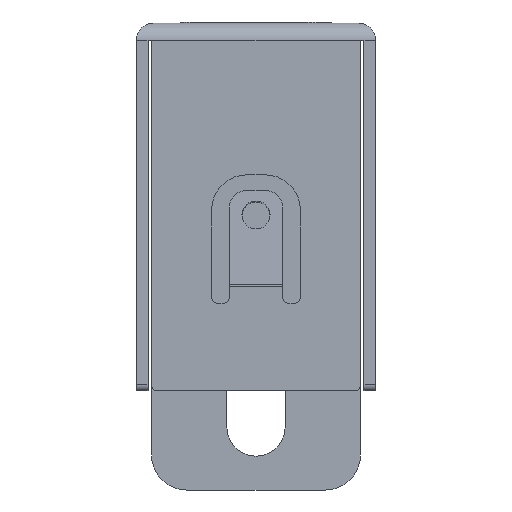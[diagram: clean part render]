
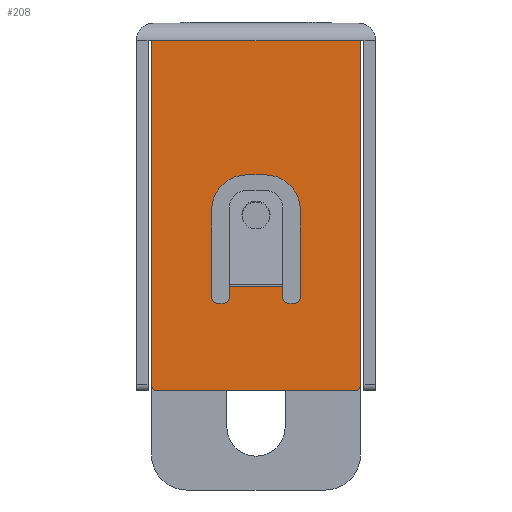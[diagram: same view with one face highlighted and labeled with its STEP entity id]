
A CAD part, front view. The second image highlights one B-rep face of the part: STEP entity #208.
In plain terms, the highlighted planar face has unit normal (0, -1, 0).
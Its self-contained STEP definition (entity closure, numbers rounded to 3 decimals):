
#208 = ADVANCED_FACE( '', ( #495, #496 ), #497, .F. );
#495 = FACE_BOUND( '', #796, .T. );
#496 = FACE_OUTER_BOUND( '', #797, .T. );
#497 = PLANE( '', #798 );
#796 = EDGE_LOOP( '', ( #1935, #1936, #1937, #1938, #1939, #1940, #1941, #1942, #1943, #1944, #1945, #1946, #1947, #1948 ) );
#797 = EDGE_LOOP( '', ( #1949, #1950, #1951, #1952, #1953, #1954 ) );
#798 = AXIS2_PLACEMENT_3D( '', #1955, #1956, #1957 );
#1935 = ORIENTED_EDGE( '', *, *, #2446, .T. );
#1936 = ORIENTED_EDGE( '', *, *, #2412, .T. );
#1937 = ORIENTED_EDGE( '', *, *, #2415, .T. );
#1938 = ORIENTED_EDGE( '', *, *, #2417, .T. );
#1939 = ORIENTED_EDGE( '', *, *, #2419, .T. );
#1940 = ORIENTED_EDGE( '', *, *, #2421, .T. );
#1941 = ORIENTED_EDGE( '', *, *, #2423, .T. );
#1942 = ORIENTED_EDGE( '', *, *, #2425, .T. );
#1943 = ORIENTED_EDGE( '', *, *, #2427, .T. );
#1944 = ORIENTED_EDGE( '', *, *, #2431, .T. );
#1945 = ORIENTED_EDGE( '', *, *, #2447, .T. );
#1946 = ORIENTED_EDGE( '', *, *, #2441, .T. );
#1947 = ORIENTED_EDGE( '', *, *, #2442, .T. );
#1948 = ORIENTED_EDGE( '', *, *, #2444, .T. );
#1949 = ORIENTED_EDGE( '', *, *, #2403, .F. );
#1950 = ORIENTED_EDGE( '', *, *, #2411, .F. );
#1951 = ORIENTED_EDGE( '', *, *, #2409, .F. );
#1952 = ORIENTED_EDGE( '', *, *, #2407, .F. );
#1953 = ORIENTED_EDGE( '', *, *, #2205, .F. );
#1954 = ORIENTED_EDGE( '', *, *, #2406, .F. );
#1955 = CARTESIAN_POINT( '', ( -8.45, 0., -31. ) );
#1956 = DIRECTION( '', ( 0., 1., 0. ) );
#1957 = DIRECTION( '', ( 0., 0., 1. ) );
#2205 = EDGE_CURVE( '', #2508, #2498, #2722, .T. );
#2403 = EDGE_CURVE( '', #3042, #3043, #3044, .T. );
#2406 = EDGE_CURVE( '', #3043, #2508, #3047, .T. );
#2407 = EDGE_CURVE( '', #2498, #3048, #3049, .T. );
#2409 = EDGE_CURVE( '', #3048, #3051, #3052, .T. );
#2411 = EDGE_CURVE( '', #3051, #3042, #3054, .T. );
#2412 = EDGE_CURVE( '', #3055, #3056, #3057, .T. );
#2415 = EDGE_CURVE( '', #3056, #3060, #3061, .T. );
#2417 = EDGE_CURVE( '', #3060, #3063, #3064, .T. );
#2419 = EDGE_CURVE( '', #3063, #3066, #3067, .T. );
#2421 = EDGE_CURVE( '', #3066, #3069, #3070, .T. );
#2423 = EDGE_CURVE( '', #3069, #3072, #3073, .T. );
#2425 = EDGE_CURVE( '', #3072, #3075, #3076, .T. );
#2427 = EDGE_CURVE( '', #3075, #3078, #3079, .T. );
#2431 = EDGE_CURVE( '', #3078, #3084, #3086, .T. );
#2441 = EDGE_CURVE( '', #3093, #3102, #3104, .T. );
#2442 = EDGE_CURVE( '', #3102, #3105, #3106, .T. );
#2444 = EDGE_CURVE( '', #3105, #3108, #3109, .T. );
#2446 = EDGE_CURVE( '', #3108, #3055, #3111, .T. );
#2447 = EDGE_CURVE( '', #3084, #3093, #3112, .T. );
#2498 = VERTEX_POINT( '', #3182 );
#2508 = VERTEX_POINT( '', #3197 );
#2722 = LINE( '', #3495, #3496 );
#3042 = VERTEX_POINT( '', #3962 );
#3043 = VERTEX_POINT( '', #3963 );
#3044 = CIRCLE( '', #3964, 0.5 );
#3047 = LINE( '', #3969, #3970 );
#3048 = VERTEX_POINT( '', #3971 );
#3049 = LINE( '', #3972, #3973 );
#3051 = VERTEX_POINT( '', #3976 );
#3052 = CIRCLE( '', #3977, 0.5 );
#3054 = LINE( '', #3980, #3981 );
#3055 = VERTEX_POINT( '', #3982 );
#3056 = VERTEX_POINT( '', #3983 );
#3057 = LINE( '', #3984, #3985 );
#3060 = VERTEX_POINT( '', #3990 );
#3061 = CIRCLE( '', #3991, 3. );
#3063 = VERTEX_POINT( '', #3994 );
#3064 = LINE( '', #3995, #3996 );
#3066 = VERTEX_POINT( '', #3999 );
#3067 = CIRCLE( '', #4000, 3. );
#3069 = VERTEX_POINT( '', #4003 );
#3070 = LINE( '', #4004, #4005 );
#3072 = VERTEX_POINT( '', #4008 );
#3073 = CIRCLE( '', #4009, 0.5 );
#3075 = VERTEX_POINT( '', #4012 );
#3076 = LINE( '', #4013, #4014 );
#3078 = VERTEX_POINT( '', #4017 );
#3079 = CIRCLE( '', #4018, 0.5 );
#3084 = VERTEX_POINT( '', #4025 );
#3086 = LINE( '', #4027, #4028 );
#3093 = VERTEX_POINT( '', #4037 );
#3102 = VERTEX_POINT( '', #4049 );
#3104 = LINE( '', #4052, #4053 );
#3105 = VERTEX_POINT( '', #4054 );
#3106 = CIRCLE( '', #4055, 0.5 );
#3108 = VERTEX_POINT( '', #4058 );
#3109 = LINE( '', #4059, #4060 );
#3111 = CIRCLE( '', #4063, 0.5 );
#3112 = LINE( '', #4064, #4065 );
#3182 = CARTESIAN_POINT( '', ( 8.95, 0., -1.5 ) );
#3197 = CARTESIAN_POINT( '', ( -8.95, 0., -1.5 ) );
#3495 = CARTESIAN_POINT( '', ( -8.95, 0., -1.5 ) );
#3496 = VECTOR( '', #4315, 1000. );
#3962 = CARTESIAN_POINT( '', ( -8.45, 0., -31.5 ) );
#3963 = CARTESIAN_POINT( '', ( -8.95, 0., -31. ) );
#3964 = AXIS2_PLACEMENT_3D( '', #4615, #4616, #4617 );
#3969 = CARTESIAN_POINT( '', ( -8.95, 0., -31. ) );
#3970 = VECTOR( '', #4620, 1000. );
#3971 = CARTESIAN_POINT( '', ( 8.95, 0., -31. ) );
#3972 = CARTESIAN_POINT( '', ( 8.95, 0., -1.5 ) );
#3973 = VECTOR( '', #4621, 1000. );
#3976 = CARTESIAN_POINT( '', ( 8.45, 0., -31.5 ) );
#3977 = AXIS2_PLACEMENT_3D( '', #4623, #4624, #4625 );
#3980 = CARTESIAN_POINT( '', ( 8.45, 0., -31.5 ) );
#3981 = VECTOR( '', #4627, 1000. );
#3982 = CARTESIAN_POINT( '', ( -3.8, 0., -23.5 ) );
#3983 = CARTESIAN_POINT( '', ( -3.8, 0., -16. ) );
#3984 = CARTESIAN_POINT( '', ( -3.8, 0., -23.5 ) );
#3985 = VECTOR( '', #4628, 1000. );
#3990 = CARTESIAN_POINT( '', ( -0.8, 0., -13. ) );
#3991 = AXIS2_PLACEMENT_3D( '', #4631, #4632, #4633 );
#3994 = CARTESIAN_POINT( '', ( 0.8, 0., -13. ) );
#3995 = CARTESIAN_POINT( '', ( -0.8, 0., -13. ) );
#3996 = VECTOR( '', #4635, 1000. );
#3999 = CARTESIAN_POINT( '', ( 3.8, 0., -16. ) );
#4000 = AXIS2_PLACEMENT_3D( '', #4637, #4638, #4639 );
#4003 = CARTESIAN_POINT( '', ( 3.8, 0., -23.5 ) );
#4004 = CARTESIAN_POINT( '', ( 3.8, 0., -16. ) );
#4005 = VECTOR( '', #4641, 1000. );
#4008 = CARTESIAN_POINT( '', ( 3.3, 0., -24. ) );
#4009 = AXIS2_PLACEMENT_3D( '', #4643, #4644, #4645 );
#4012 = CARTESIAN_POINT( '', ( 2.8, 0., -24. ) );
#4013 = CARTESIAN_POINT( '', ( 3.3, 0., -24. ) );
#4014 = VECTOR( '', #4647, 1000. );
#4017 = CARTESIAN_POINT( '', ( 2.3, 0., -23.5 ) );
#4018 = AXIS2_PLACEMENT_3D( '', #4649, #4650, #4651 );
#4025 = CARTESIAN_POINT( '', ( 2.3, 0., -22.544 ) );
#4027 = CARTESIAN_POINT( '', ( 2.3, 0., -23.5 ) );
#4028 = VECTOR( '', #4657, 1000. );
#4037 = CARTESIAN_POINT( '', ( -2.3, 0., -22.544 ) );
#4049 = CARTESIAN_POINT( '', ( -2.3, 0., -23.5 ) );
#4052 = CARTESIAN_POINT( '', ( -2.3, 0., -22.544 ) );
#4053 = VECTOR( '', #4673, 1000. );
#4054 = CARTESIAN_POINT( '', ( -2.8, 0., -24. ) );
#4055 = AXIS2_PLACEMENT_3D( '', #4674, #4675, #4676 );
#4058 = CARTESIAN_POINT( '', ( -3.3, 0., -24. ) );
#4059 = CARTESIAN_POINT( '', ( -2.8, 0., -24. ) );
#4060 = VECTOR( '', #4678, 1000. );
#4063 = AXIS2_PLACEMENT_3D( '', #4680, #4681, #4682 );
#4064 = CARTESIAN_POINT( '', ( 2.3, 0., -22.544 ) );
#4065 = VECTOR( '', #4683, 1000. );
#4315 = DIRECTION( '', ( 1., 0., 0. ) );
#4615 = CARTESIAN_POINT( '', ( -8.45, 0., -31. ) );
#4616 = DIRECTION( '', ( 0., 1., 0. ) );
#4617 = DIRECTION( '', ( 1., 0., 0. ) );
#4620 = DIRECTION( '', ( 0., 0., 1. ) );
#4621 = DIRECTION( '', ( 0., 0., -1. ) );
#4623 = CARTESIAN_POINT( '', ( 8.45, 0., -31. ) );
#4624 = DIRECTION( '', ( 0., 1., 0. ) );
#4625 = DIRECTION( '', ( 1., 0., 0. ) );
#4627 = DIRECTION( '', ( -1., 0., 0. ) );
#4628 = DIRECTION( '', ( 0., 0., 1. ) );
#4631 = CARTESIAN_POINT( '', ( -0.8, 0., -16. ) );
#4632 = DIRECTION( '', ( 0., 1., 0. ) );
#4633 = DIRECTION( '', ( 1., 0., 0. ) );
#4635 = DIRECTION( '', ( 1., 0., 0. ) );
#4637 = CARTESIAN_POINT( '', ( 0.8, 0., -16. ) );
#4638 = DIRECTION( '', ( 0., 1., 0. ) );
#4639 = DIRECTION( '', ( 1., 0., 0. ) );
#4641 = DIRECTION( '', ( 0., 0., -1. ) );
#4643 = CARTESIAN_POINT( '', ( 3.3, 0., -23.5 ) );
#4644 = DIRECTION( '', ( 0., 1., 0. ) );
#4645 = DIRECTION( '', ( 1., 0., 0. ) );
#4647 = DIRECTION( '', ( -1., 0., 0. ) );
#4649 = CARTESIAN_POINT( '', ( 2.8, 0., -23.5 ) );
#4650 = DIRECTION( '', ( 0., 1., 0. ) );
#4651 = DIRECTION( '', ( 1., 0., 0. ) );
#4657 = DIRECTION( '', ( 0., 0., 1. ) );
#4673 = DIRECTION( '', ( 0., 0., -1. ) );
#4674 = CARTESIAN_POINT( '', ( -2.8, 0., -23.5 ) );
#4675 = DIRECTION( '', ( 0., 1., 0. ) );
#4676 = DIRECTION( '', ( 1., 0., 0. ) );
#4678 = DIRECTION( '', ( -1., 0., 0. ) );
#4680 = CARTESIAN_POINT( '', ( -3.3, 0., -23.5 ) );
#4681 = DIRECTION( '', ( 0., 1., 0. ) );
#4682 = DIRECTION( '', ( 1., 0., 0. ) );
#4683 = DIRECTION( '', ( -1., 0., 0. ) );
